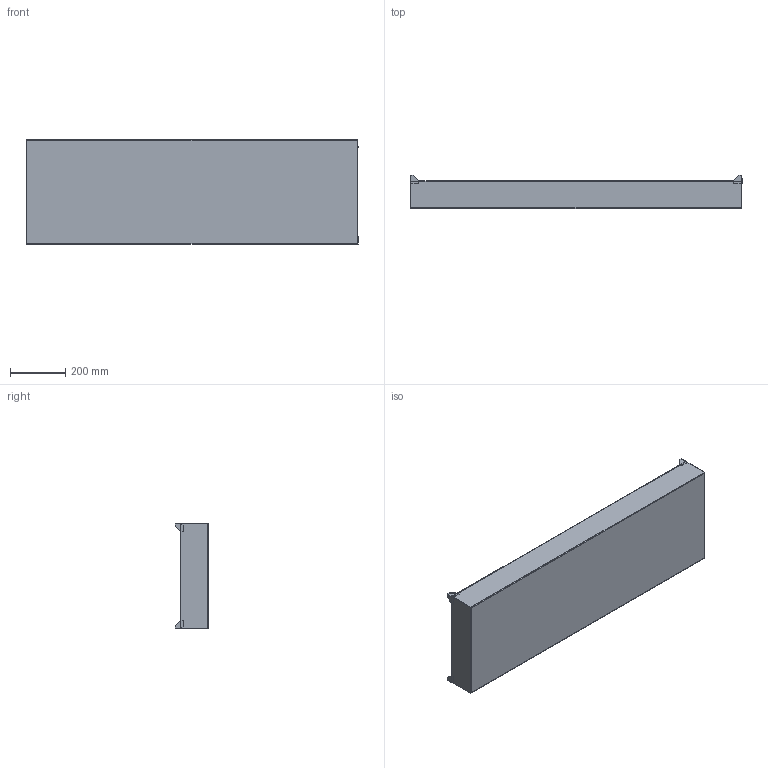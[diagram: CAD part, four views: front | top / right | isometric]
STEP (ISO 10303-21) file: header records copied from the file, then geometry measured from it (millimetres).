
FILE_DESCRIPTION (( 'STEP AP203' ), '1' );
FILE_NAME ('VASSOIO_SPOILER.STEP', '2019-02-20T19:26:04', ( '' ), ( '' ), 'SwSTEP 2.0', 'SolidWorks 2019', '' );
FILE_SCHEMA (( 'CONFIG_CONTROL_DESIGN' ));
Length unit declared in the file: millimetre
Products named in the file (1): VASSOIO_SPOILER
Bounding box: 1202 x 120 x 382 mm (x, y, z)
Volume: 776918.2 mm3; surface area: 1558439.2 mm2
Topology: 5 solids, 5 shells, 122 faces, 256 edges, 144 vertices
Faces by surface type: plane 102, cylinder 20
Entity records: 3189 total; most frequent: DIRECTION 542, CARTESIAN_POINT 523, ORIENTED_EDGE 512, EDGE_CURVE 256, VECTOR 216, LINE 216, AXIS2_PLACEMENT_3D 163, VERTEX_POINT 144
